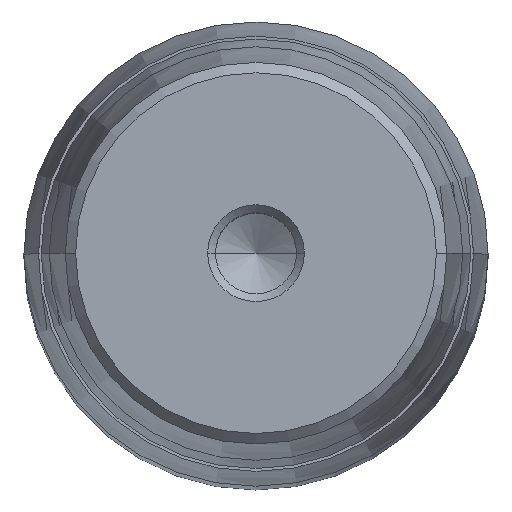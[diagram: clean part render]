
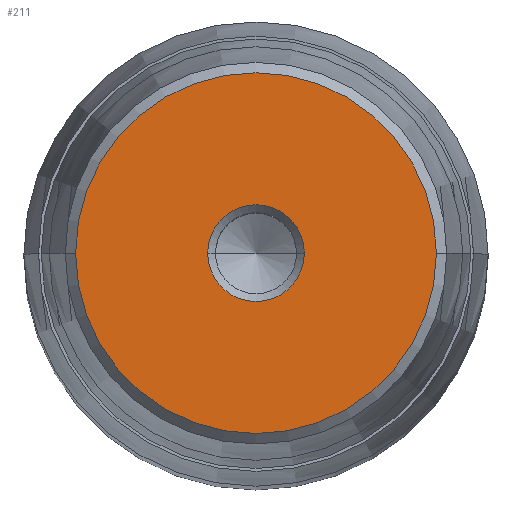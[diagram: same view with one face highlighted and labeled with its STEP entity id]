
A CAD part, top view. The second image highlights one B-rep face of the part: STEP entity #211.
In plain terms, the highlighted planar face has unit normal (0, 0, 1).
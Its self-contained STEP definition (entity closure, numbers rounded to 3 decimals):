
#136=CARTESIAN_POINT('Axis2P3D Location',(0.,0.,58.)) ;
#140=CARTESIAN_POINT('Vertex',(-5.,0.,58.)) ;
#142=CARTESIAN_POINT('Vertex',(5.,0.,58.)) ;
#179=CARTESIAN_POINT('Axis2P3D Location',(0.,5.,58.)) ;
#184=CARTESIAN_POINT('Axis2P3D Location',(0.,0.,58.)) ;
#188=CARTESIAN_POINT('Vertex',(-18.65,0.,58.)) ;
#190=CARTESIAN_POINT('Vertex',(18.65,0.,58.)) ;
#193=CARTESIAN_POINT('Axis2P3D Location',(0.,0.,58.)) ;
#202=CARTESIAN_POINT('Axis2P3D Location',(0.,0.,58.)) ;
#137=DIRECTION('Axis2P3D Direction',(0.,-0.,1.)) ;
#180=DIRECTION('Axis2P3D Direction',(0.,0.,-1.)) ;
#181=DIRECTION('Axis2P3D XDirection',(-1.,0.,0.)) ;
#185=DIRECTION('Axis2P3D Direction',(0.,0.,-1.)) ;
#194=DIRECTION('Axis2P3D Direction',(0.,0.,-1.)) ;
#203=DIRECTION('Axis2P3D Direction',(0.,0.,-1.)) ;
#138=AXIS2_PLACEMENT_3D('Circle Axis2P3D',#136,#137,$) ;
#182=AXIS2_PLACEMENT_3D('Plane Axis2P3D',#179,#180,#181) ;
#186=AXIS2_PLACEMENT_3D('Circle Axis2P3D',#184,#185,$) ;
#195=AXIS2_PLACEMENT_3D('Circle Axis2P3D',#193,#194,$) ;
#204=AXIS2_PLACEMENT_3D('Circle Axis2P3D',#202,#203,$) ;
#199=ORIENTED_EDGE('',*,*,#192,.F.) ;
#200=ORIENTED_EDGE('',*,*,#197,.F.) ;
#208=ORIENTED_EDGE('',*,*,#206,.T.) ;
#209=ORIENTED_EDGE('',*,*,#144,.T.) ;
#210=FACE_BOUND('',#207,.T.) ;
#211=ADVANCED_FACE('722-48x250x290',(#201,#210),#183,.F.) ;
#139=CIRCLE('generated circle',#138,5.) ;
#187=CIRCLE('generated circle',#186,18.65) ;
#196=CIRCLE('generated circle',#195,18.65) ;
#205=CIRCLE('generated circle',#204,5.) ;
#144=EDGE_CURVE('',#141,#143,#139,.F.) ;
#192=EDGE_CURVE('',#189,#191,#187,.T.) ;
#197=EDGE_CURVE('',#191,#189,#196,.T.) ;
#206=EDGE_CURVE('',#143,#141,#205,.T.) ;
#198=EDGE_LOOP('',(#199,#200)) ;
#207=EDGE_LOOP('',(#208,#209)) ;
#201=FACE_OUTER_BOUND('',#198,.T.) ;
#183=PLANE('Plane',#182) ;
#141=VERTEX_POINT('',#140) ;
#143=VERTEX_POINT('',#142) ;
#189=VERTEX_POINT('',#188) ;
#191=VERTEX_POINT('',#190) ;
